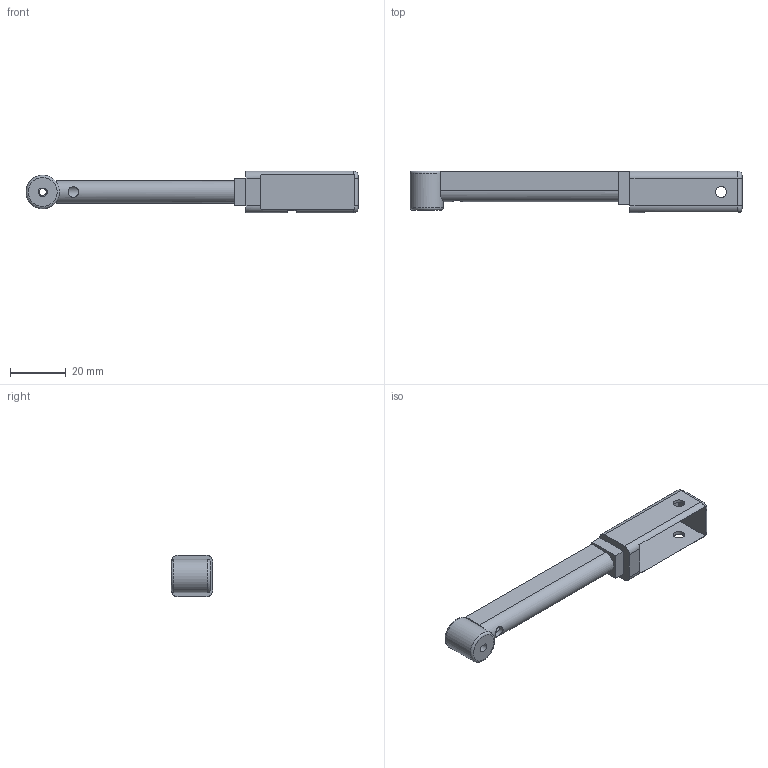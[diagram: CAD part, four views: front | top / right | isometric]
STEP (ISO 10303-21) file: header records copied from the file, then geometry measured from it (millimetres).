
FILE_DESCRIPTION(('Open CASCADE Model'),'2;1');
FILE_NAME('Open CASCADE Shape Model','2026-11-03T00:01:05',('Author'),( 'Open CASCADE'),'Open CASCADE STEP processor 8.0','build123d', 'Unknown');
FILE_SCHEMA(('AUTOMOTIVE_DESIGN { 1 0 10303 214 1 1 1 1 }'));
Length unit declared in the file: millimetre
Products named in the file (1): COMPOUND
Bounding box: 119.24 x 15 x 15 mm (x, y, z)
Volume: 8699.8 mm3; surface area: 7996.1 mm2
Topology: 1 solids, 1 shells, 50 faces, 132 edges, 85 vertices
Faces by surface type: plane 28, cylinder 16, revolution 4, torus 2
Full cylindrical faces by diameter (mm): 2.5 x1, 3.8 x1, 4 x2, 4.6 x1, 12 x1
Entity records: 5143 total; most frequent: CARTESIAN_POINT 2613, DIRECTION 432, ORIENTED_EDGE 264, PCURVE 264, DEFINITIONAL_REPRESENTATION 264, LINE 225, VECTOR 225, EDGE_CURVE 132
